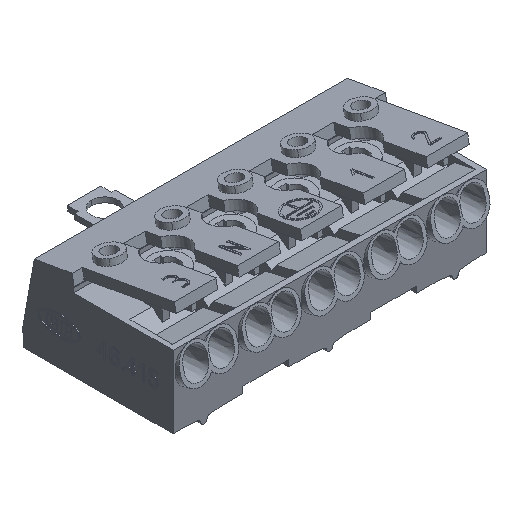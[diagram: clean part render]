
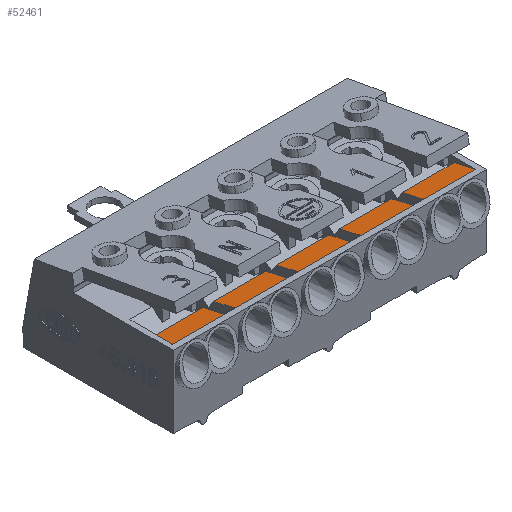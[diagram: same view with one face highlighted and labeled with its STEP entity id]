
A CAD part, isometric view. The second image highlights one B-rep face of the part: STEP entity #52461.
In plain terms, the highlighted planar face has unit normal (0, 0.225, 0.974).
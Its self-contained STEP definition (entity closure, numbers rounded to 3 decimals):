
#18126=CARTESIAN_POINT(' ',(24.1,0.835,11.5));
#18127=VERTEX_POINT(' ',#18126);
#18141=CARTESIAN_POINT(' ',(-24.1,0.835,11.5));
#18146=DIRECTION(' ',(1.,0.,0.));
#18151=VECTOR(' ',#18146,1.);
#18156=LINE('',#18141,#18151);
#18161=CARTESIAN_POINT(' ',(-24.1,0.835,11.5));
#18162=VERTEX_POINT(' ',#18161);
#18166=EDGE_CURVE(' ',#18162,#18127,#18156,.T.);
#39311=CARTESIAN_POINT(' ',(14.15,1.,11.462));
#39312=VERTEX_POINT(' ',#39311);
#39326=CARTESIAN_POINT(' ',(14.15,1.,11.462));
#39331=DIRECTION(' ',(1.,0.,0.));
#39336=VECTOR(' ',#39331,1.);
#39341=LINE('',#39326,#39336);
#39346=CARTESIAN_POINT(' ',(15.85,1.,11.462));
#39347=VERTEX_POINT(' ',#39346);
#39351=EDGE_CURVE(' ',#39312,#39347,#39341,.T.);
#40551=CARTESIAN_POINT(' ',(-15.85,1.,11.462));
#40552=VERTEX_POINT(' ',#40551);
#40566=CARTESIAN_POINT(' ',(-15.85,1.,11.462));
#40571=DIRECTION(' ',(1.,0.,0.));
#40576=VECTOR(' ',#40571,1.);
#40581=LINE('',#40566,#40576);
#40586=CARTESIAN_POINT(' ',(-14.15,1.,11.462));
#40587=VERTEX_POINT(' ',#40586);
#40591=EDGE_CURVE(' ',#40552,#40587,#40581,.T.);
#50636=CARTESIAN_POINT(' ',(15.85,1.,11.462));
#50641=DIRECTION(' ',(0.,0.974,-0.225));
#50646=VECTOR(' ',#50641,1.);
#50651=LINE('',#50636,#50646);
#50656=CARTESIAN_POINT(' ',(15.85,4.3,10.7));
#50657=VERTEX_POINT(' ',#50656);
#50661=EDGE_CURVE(' ',#39347,#50657,#50651,.T.);
#51786=CARTESIAN_POINT(' ',(24.1,4.3,10.7));
#51787=VERTEX_POINT(' ',#51786);
#51801=CARTESIAN_POINT(' ',(24.1,0.835,11.5));
#51806=DIRECTION(' ',(0.,0.974,-0.225));
#51811=VECTOR(' ',#51806,1.);
#51816=LINE('',#51801,#51811);
#51821=EDGE_CURVE(' ',#18127,#51787,#51816,.T.);
#51891=CARTESIAN_POINT(' ',(-24.1,0.835,11.5));
#51896=DIRECTION(' ',(-0.,0.225,0.974));
#51901=DIRECTION(' ',(1.,0.,0.));
#51906=AXIS2_PLACEMENT_3D(' ',#51891,#51896,#51901);
#51911=PLANE(' ',#51906);
#51916=CARTESIAN_POINT(' ',(-15.85,4.3,10.7));
#51921=DIRECTION(' ',(0.,-0.974,0.225));
#51926=VECTOR(' ',#51921,1.);
#51931=LINE('',#51916,#51926);
#51936=CARTESIAN_POINT(' ',(-15.85,4.3,10.7));
#51937=VERTEX_POINT(' ',#51936);
#51941=EDGE_CURVE(' ',#51937,#40552,#51931,.T.);
#51946=ORIENTED_EDGE(' ',*,*,#51941,.F.);
#51951=CARTESIAN_POINT(' ',(-24.1,4.3,10.7));
#51956=DIRECTION(' ',(1.,0.,0.));
#51961=VECTOR(' ',#51956,1.);
#51966=LINE('',#51951,#51961);
#51971=CARTESIAN_POINT(' ',(-24.1,4.3,10.7));
#51972=VERTEX_POINT(' ',#51971);
#51976=EDGE_CURVE(' ',#51972,#51937,#51966,.T.);
#51981=ORIENTED_EDGE(' ',*,*,#51976,.F.);
#51986=CARTESIAN_POINT(' ',(-24.1,0.835,11.5));
#51991=DIRECTION(' ',(0.,0.974,-0.225));
#51996=VECTOR(' ',#51991,1.);
#52001=LINE('',#51986,#51996);
#52006=EDGE_CURVE(' ',#18162,#51972,#52001,.T.);
#52011=ORIENTED_EDGE(' ',*,*,#52006,.F.);
#52016=ORIENTED_EDGE(' ',*,*,#18166,.T.);
#52021=ORIENTED_EDGE(' ',*,*,#51821,.T.);
#52026=CARTESIAN_POINT(' ',(15.85,4.3,10.7));
#52031=DIRECTION(' ',(1.,0.,0.));
#52036=VECTOR(' ',#52031,1.);
#52041=LINE('',#52026,#52036);
#52046=EDGE_CURVE(' ',#50657,#51787,#52041,.T.);
#52051=ORIENTED_EDGE(' ',*,*,#52046,.F.);
#52056=ORIENTED_EDGE(' ',*,*,#50661,.F.);
#52061=ORIENTED_EDGE(' ',*,*,#39351,.F.);
#52066=CARTESIAN_POINT(' ',(14.15,4.3,10.7));
#52071=DIRECTION(' ',(0.,-0.974,0.225));
#52076=VECTOR(' ',#52071,1.);
#52081=LINE('',#52066,#52076);
#52086=CARTESIAN_POINT(' ',(14.15,4.3,10.7));
#52087=VERTEX_POINT(' ',#52086);
#52091=EDGE_CURVE(' ',#52087,#39312,#52081,.T.);
#52096=ORIENTED_EDGE(' ',*,*,#52091,.F.);
#52101=CARTESIAN_POINT(' ',(5.85,4.3,10.7));
#52106=DIRECTION(' ',(1.,0.,0.));
#52111=VECTOR(' ',#52106,1.);
#52116=LINE('',#52101,#52111);
#52121=CARTESIAN_POINT(' ',(5.85,4.3,10.7));
#52122=VERTEX_POINT(' ',#52121);
#52126=EDGE_CURVE(' ',#52122,#52087,#52116,.T.);
#52131=ORIENTED_EDGE(' ',*,*,#52126,.F.);
#52136=CARTESIAN_POINT(' ',(5.85,1.,11.462));
#52141=DIRECTION(' ',(0.,0.974,-0.225));
#52146=VECTOR(' ',#52141,1.);
#52151=LINE('',#52136,#52146);
#52156=CARTESIAN_POINT(' ',(5.85,1.,11.462));
#52157=VERTEX_POINT(' ',#52156);
#52161=EDGE_CURVE(' ',#52157,#52122,#52151,.T.);
#52166=ORIENTED_EDGE(' ',*,*,#52161,.F.);
#52171=CARTESIAN_POINT(' ',(4.15,1.,11.462));
#52176=DIRECTION(' ',(1.,0.,0.));
#52181=VECTOR(' ',#52176,1.);
#52186=LINE('',#52171,#52181);
#52191=CARTESIAN_POINT(' ',(4.15,1.,11.462));
#52192=VERTEX_POINT(' ',#52191);
#52196=EDGE_CURVE(' ',#52192,#52157,#52186,.T.);
#52201=ORIENTED_EDGE(' ',*,*,#52196,.F.);
#52206=CARTESIAN_POINT(' ',(4.15,4.3,10.7));
#52211=DIRECTION(' ',(0.,-0.974,0.225));
#52216=VECTOR(' ',#52211,1.);
#52221=LINE('',#52206,#52216);
#52226=CARTESIAN_POINT(' ',(4.15,4.3,10.7));
#52227=VERTEX_POINT(' ',#52226);
#52231=EDGE_CURVE(' ',#52227,#52192,#52221,.T.);
#52236=ORIENTED_EDGE(' ',*,*,#52231,.F.);
#52241=CARTESIAN_POINT(' ',(-4.15,4.3,10.7));
#52246=DIRECTION(' ',(1.,0.,0.));
#52251=VECTOR(' ',#52246,1.);
#52256=LINE('',#52241,#52251);
#52261=CARTESIAN_POINT(' ',(-4.15,4.3,10.7));
#52262=VERTEX_POINT(' ',#52261);
#52266=EDGE_CURVE(' ',#52262,#52227,#52256,.T.);
#52271=ORIENTED_EDGE(' ',*,*,#52266,.F.);
#52276=CARTESIAN_POINT(' ',(-4.15,1.,11.462));
#52281=DIRECTION(' ',(0.,0.974,-0.225));
#52286=VECTOR(' ',#52281,1.);
#52291=LINE('',#52276,#52286);
#52296=CARTESIAN_POINT(' ',(-4.15,1.,11.462));
#52297=VERTEX_POINT(' ',#52296);
#52301=EDGE_CURVE(' ',#52297,#52262,#52291,.T.);
#52306=ORIENTED_EDGE(' ',*,*,#52301,.F.);
#52311=CARTESIAN_POINT(' ',(-5.85,1.,11.462));
#52316=DIRECTION(' ',(1.,0.,0.));
#52321=VECTOR(' ',#52316,1.);
#52326=LINE('',#52311,#52321);
#52331=CARTESIAN_POINT(' ',(-5.85,1.,11.462));
#52332=VERTEX_POINT(' ',#52331);
#52336=EDGE_CURVE(' ',#52332,#52297,#52326,.T.);
#52341=ORIENTED_EDGE(' ',*,*,#52336,.F.);
#52346=CARTESIAN_POINT(' ',(-5.85,4.3,10.7));
#52351=DIRECTION(' ',(0.,-0.974,0.225));
#52356=VECTOR(' ',#52351,1.);
#52361=LINE('',#52346,#52356);
#52366=CARTESIAN_POINT(' ',(-5.85,4.3,10.7));
#52367=VERTEX_POINT(' ',#52366);
#52371=EDGE_CURVE(' ',#52367,#52332,#52361,.T.);
#52376=ORIENTED_EDGE(' ',*,*,#52371,.F.);
#52381=CARTESIAN_POINT(' ',(-14.15,4.3,10.7));
#52386=DIRECTION(' ',(1.,0.,0.));
#52391=VECTOR(' ',#52386,1.);
#52396=LINE('',#52381,#52391);
#52401=CARTESIAN_POINT(' ',(-14.15,4.3,10.7));
#52402=VERTEX_POINT(' ',#52401);
#52406=EDGE_CURVE(' ',#52402,#52367,#52396,.T.);
#52411=ORIENTED_EDGE(' ',*,*,#52406,.F.);
#52416=CARTESIAN_POINT(' ',(-14.15,1.,11.462));
#52421=DIRECTION(' ',(0.,0.974,-0.225));
#52426=VECTOR(' ',#52421,1.);
#52431=LINE('',#52416,#52426);
#52436=EDGE_CURVE(' ',#40587,#52402,#52431,.T.);
#52441=ORIENTED_EDGE(' ',*,*,#52436,.F.);
#52446=ORIENTED_EDGE(' ',*,*,#40591,.F.);
#52451=EDGE_LOOP(' ',(#51946,#51981,#52011,#52016,#52021,#52051,#52056,#52061,#52096,#52131,#52166,#52201,#52236,#52271,#52306,#52341,#52376,#52411,#52441,#52446));
#52456=FACE_OUTER_BOUND(' ',#52451,.T.);
#52461=ADVANCED_FACE('',(#52456),#51911,.T.);
